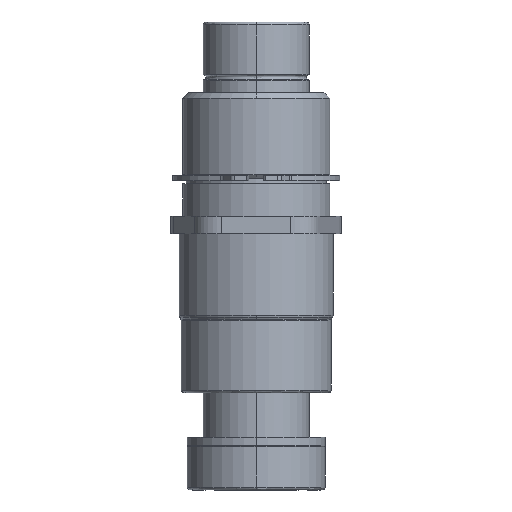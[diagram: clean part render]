
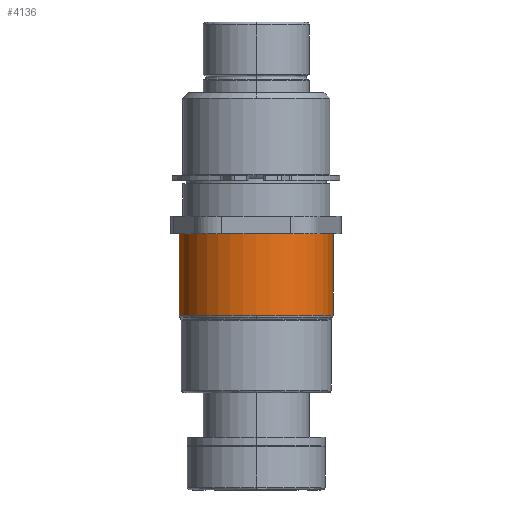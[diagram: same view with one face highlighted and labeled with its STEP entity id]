
A CAD part, left-side view. The second image highlights one B-rep face of the part: STEP entity #4136.
In plain terms, the highlighted cylindrical face has radius 27.678 mm (diameter 55.357 mm), a partial arc.
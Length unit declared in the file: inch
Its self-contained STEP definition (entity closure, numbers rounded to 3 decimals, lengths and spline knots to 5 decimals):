
#67 = EDGE_LOOP ( 'NONE', ( #954, #110, #2509, #4555, #2020 ) ) ;
#110 = ORIENTED_EDGE ( 'NONE', *, *, #587, .F. ) ;
#199 = DIRECTION ( 'NONE',  ( 0., -1., 0. ) ) ;
#286 = CARTESIAN_POINT ( 'NONE',  ( 0., 0., 1.0897 ) ) ;
#569 = CARTESIAN_POINT ( 'NONE',  ( -1.0897, -1.1481, 0. ) ) ;
#587 = EDGE_CURVE ( 'NONE', #3978, #4428, #2982, .T. ) ;
#600 = CARTESIAN_POINT ( 'NONE',  ( 0., 0., -1.0897 ) ) ;
#605 = AXIS2_PLACEMENT_3D ( 'NONE', #1515, #3479, #4615 ) ;
#752 = EDGE_CURVE ( 'NONE', #2304, #4959, #2491, .T. ) ;
#766 = CYLINDRICAL_SURFACE ( 'NONE', #4648, 1.0897 ) ;
#897 = VECTOR ( 'NONE', #4519, 39.37008 ) ;
#940 = DIRECTION ( 'NONE',  ( 0., 0., 1. ) ) ;
#954 = ORIENTED_EDGE ( 'NONE', *, *, #2540, .F. ) ;
#1045 = DIRECTION ( 'NONE',  ( 0., 0., 1. ) ) ;
#1057 = VECTOR ( 'NONE', #2135, 39.37008 ) ;
#1333 = CARTESIAN_POINT ( 'NONE',  ( 0., -1.1481, 0. ) ) ;
#1413 = EDGE_CURVE ( 'NONE', #4959, #2382, #3073, .T. ) ;
#1515 = CARTESIAN_POINT ( 'NONE',  ( 0., -1.1481, 0. ) ) ;
#1810 = DIRECTION ( 'NONE',  ( 0., 1., 0. ) ) ;
#1860 = LINE ( 'NONE', #4094, #897 ) ;
#1919 = AXIS2_PLACEMENT_3D ( 'NONE', #1333, #199, #2875 ) ;
#1999 = AXIS2_PLACEMENT_3D ( 'NONE', #2459, #4401, #940 ) ;
#2020 = ORIENTED_EDGE ( 'NONE', *, *, #1413, .T. ) ;
#2135 = DIRECTION ( 'NONE',  ( 0., 1., 0. ) ) ;
#2304 = VERTEX_POINT ( 'NONE', #4445 ) ;
#2382 = VERTEX_POINT ( 'NONE', #600 ) ;
#2459 = CARTESIAN_POINT ( 'NONE',  ( 0., 0., 0. ) ) ;
#2491 = LINE ( 'NONE', #4468, #1057 ) ;
#2509 = ORIENTED_EDGE ( 'NONE', *, *, #4656, .F. ) ;
#2540 = EDGE_CURVE ( 'NONE', #4428, #2382, #1860, .T. ) ;
#2875 = DIRECTION ( 'NONE',  ( -1., 0., 0. ) ) ;
#2982 = CIRCLE ( 'NONE', #605, 1.0897 ) ;
#3073 = CIRCLE ( 'NONE', #1999, 1.0897 ) ;
#3375 = CARTESIAN_POINT ( 'NONE',  ( 0., -1.25, 0. ) ) ;
#3443 = CIRCLE ( 'NONE', #1919, 1.0897 ) ;
#3479 = DIRECTION ( 'NONE',  ( 0., -1., 0. ) ) ;
#3888 = CARTESIAN_POINT ( 'NONE',  ( 0., -1.1481, -1.0897 ) ) ;
#3978 = VERTEX_POINT ( 'NONE', #569 ) ;
#4094 = CARTESIAN_POINT ( 'NONE',  ( 0., -1.25, -1.0897 ) ) ;
#4136 = ADVANCED_FACE ( 'NONE', ( #4262 ), #766, .T. ) ;
#4262 = FACE_OUTER_BOUND ( 'NONE', #67, .T. ) ;
#4401 = DIRECTION ( 'NONE',  ( 0., -1., 0. ) ) ;
#4428 = VERTEX_POINT ( 'NONE', #3888 ) ;
#4445 = CARTESIAN_POINT ( 'NONE',  ( 0., -1.1481, 1.0897 ) ) ;
#4468 = CARTESIAN_POINT ( 'NONE',  ( 0., -1.25, 1.0897 ) ) ;
#4519 = DIRECTION ( 'NONE',  ( 0., 1., 0. ) ) ;
#4555 = ORIENTED_EDGE ( 'NONE', *, *, #752, .T. ) ;
#4615 = DIRECTION ( 'NONE',  ( -1., 0., 0. ) ) ;
#4648 = AXIS2_PLACEMENT_3D ( 'NONE', #3375, #1810, #1045 ) ;
#4656 = EDGE_CURVE ( 'NONE', #2304, #3978, #3443, .T. ) ;
#4959 = VERTEX_POINT ( 'NONE', #286 ) ;
